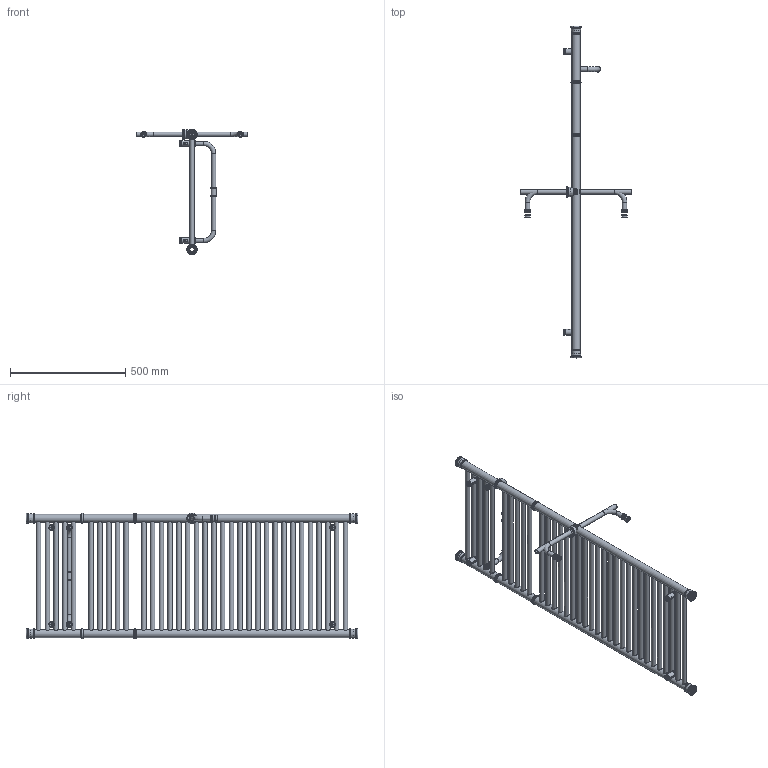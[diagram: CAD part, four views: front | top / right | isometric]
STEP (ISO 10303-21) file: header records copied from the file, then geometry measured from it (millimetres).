
FILE_DESCRIPTION( ( 'Unknown' ), '1' );
FILE_NAME( 'D:/Alplast sp. j/Witryna zespoBu - Projekty/Archiwum/Grzejniki Archiwum/Projekty/DESIGN PROGRAM/RETRO/Retro A6-500.stp', 'Unknown', ( 'Unknown' ), ( 'Unknown' ), 'PSStep 10.1', 'Unknown', ' ' );
FILE_SCHEMA( ( 'AUTOMOTIVE_DESIGN { 1 0 10303 214 1 1 1 1 }' ) );
Length unit declared in the file: millimetre
Products named in the file (65): katurek z wkrêtem do mocowania do  sciany; Assem1; mocowanie do œciany; suszarka Retro 500; Katurek fi 25 v4 ; wkrêt do katurka fi 25 v4; tulejka do mocowania grzejnika v3; mocowanie do grzejnika v3; zaœlepka do mocowania do œciany; detal-v3. par; element do suszarki do mocowania; element do suszarki do mocowania-oa0; tulejka do suszarki ; tulejka do suszarki -oa1; element do suszarki do mocowania ty³; element do suszarki do mocowania ty³-oa2; suszarka 500; kolektor Retro A6; kolektor Retro A6-oa3; Kana³ Prosty Retro 500; Kana³ Prosty Retro 500-oa4; Kana³ Prosty Retro 500-oa5; Kana³ Prosty Retro 500-oa6; Kana³ Prosty Retro 500-oa7; Kana³ Prosty Retro 500-oa8; Kana³ Prosty Retro 500-oa9; Kana³ Prosty Retro 500-oa10; Kana³ Prosty Retro 500-oa11; Kana³ Prosty Retro 500-oa12; Kana³ Prosty Retro 500-oa13; Kana³ Prosty Retro 500-oa14; Kana³ Prosty Retro 500-oa15; Kana³ Prosty Retro 500-oa16; Kana³ Prosty Retro 500-oa17; Kana³ Prosty Retro 500-oa18; Kana³ Prosty Retro 500-oa19; Kana³ Prosty Retro 500-oa20; Kana³ Prosty Retro 500-oa21; Kana³ Prosty Retro 500-oa22; Kana³ Prosty Retro 500-oa23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
Bounding box: 484 x 1438 x 544.94 mm (x, y, z)
Volume: 3532570.7 mm3; surface area: 5485058.4 mm2
Topology: 152 solids, 152 shells, 1204 faces, 2428 edges, 1562 vertices
Faces by surface type: cylinder 538, plane 362, torus 201, cone 84, bspline 12, sphere 7
Full cylindrical faces by diameter (mm): 4.917 x24, 5.9 x6, 6 x27, 6.3 x6, 6.4 x6, 15.5 x6, 17.5 x6, 17.6 x77, 18.631 x8, 20 x77, 20.3 x3, 20.5 x136, 20.6 x6, 21.15 x6, 21.9 x18, 22.8 x3, 24.5 x6, 25 x21, 25.25 x6, 25.3 x6, 32 x8, 32.4 x4, 35 x12, 35.3 x8, 35.5 x8, 39 x16, 41.15 x16
Entity records: 27967 total; most frequent: CARTESIAN_POINT 14727, DIRECTION 1828, ORIENTED_EDGE 1070, EDGE_LOOP 1052, AXIS2_PLACEMENT_3D 910, FACE_OUTER_BOUND 751, EDGE_CURVE 535, VERTEX_POINT 532
